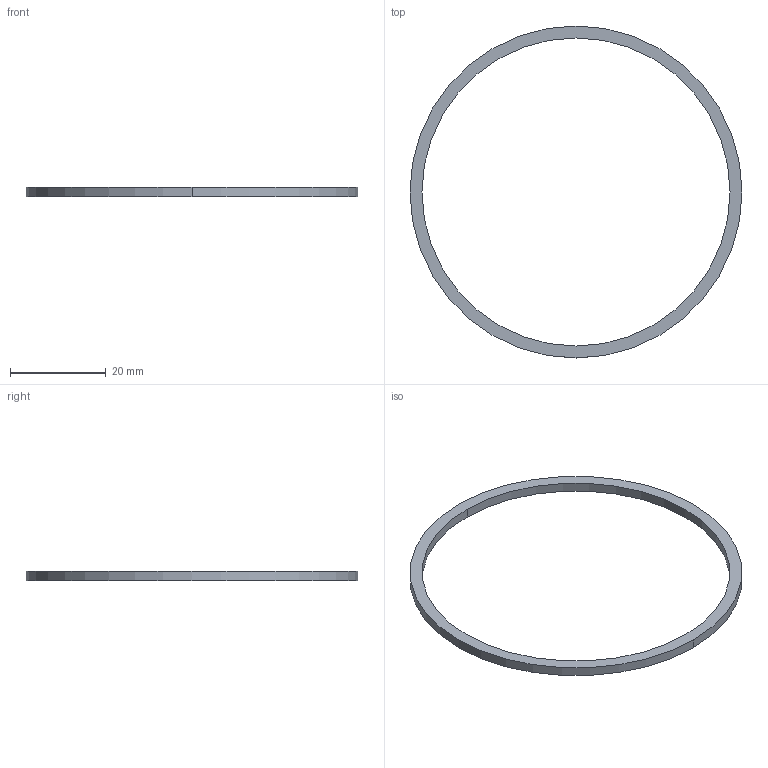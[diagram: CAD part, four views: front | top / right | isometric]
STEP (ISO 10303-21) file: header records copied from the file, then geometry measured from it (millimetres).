
FILE_DESCRIPTION(/* description */ ('VariCAD 2010-3.03 AP-214'),/* implementation_level */ '2;1');
FILE_NAME(/* name */ '0353-19-83',/* time_stamp */ '2011-03-01T22:15:14-07:00',/* author */ (''),/* organization */ (''),/* preprocessor_version */ 'ST-DEVELOPER v12',/* originating_system */ 'VariCAD 2010-3.03; kernel version (20100102)',/* authorisation */ '');
FILE_SCHEMA (('AUTOMOTIVE_DESIGN'));
Length unit declared in the file: millimetre
Products named in the file (1): Part
Bounding box: 69.5 x 69.5 x 2 mm (x, y, z)
Volume: 1052.4 mm3; surface area: 1894.4 mm2
Topology: 1 solids, 1 shells, 6 faces, 12 edges, 8 vertices
Faces by surface type: cylinder 4, plane 2
Entity records: 195 total; most frequent: DIRECTION 36, CARTESIAN_POINT 28, ORIENTED_EDGE 24, AXIS2_PLACEMENT_3D 16, EDGE_CURVE 12, EDGE_LOOP 8, CIRCLE 8, VERTEX_POINT 8
